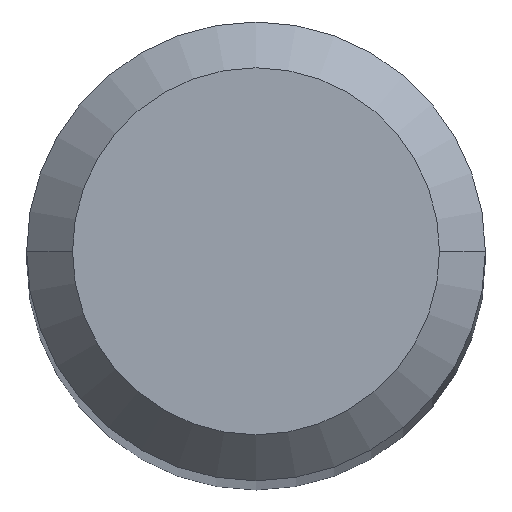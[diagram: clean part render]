
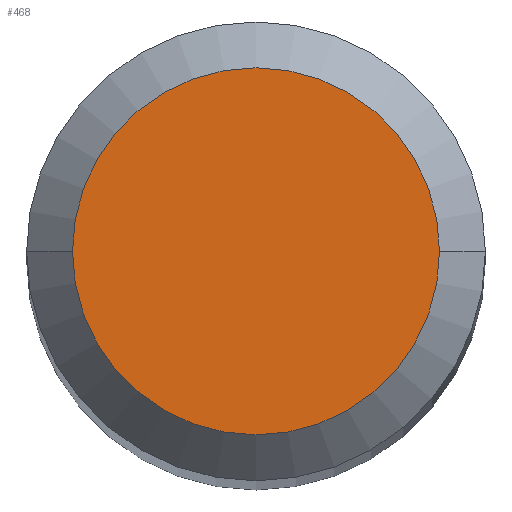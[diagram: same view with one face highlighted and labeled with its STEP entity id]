
A CAD part, top view. The second image highlights one B-rep face of the part: STEP entity #468.
In plain terms, the highlighted planar face has unit normal (0, 0, 1).
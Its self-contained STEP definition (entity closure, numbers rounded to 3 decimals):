
#9 = AXIS2_PLACEMENT_3D ( 'NONE', #73, #547, #412 ) ;
#46 = DIRECTION ( 'NONE',  ( 0., 0., 1. ) ) ;
#52 = CARTESIAN_POINT ( 'NONE',  ( 1.2, 0., 0. ) ) ;
#62 = ORIENTED_EDGE ( 'NONE', *, *, #71, .F. ) ;
#71 = EDGE_CURVE ( 'NONE', #283, #215, #132, .T. ) ;
#73 = CARTESIAN_POINT ( 'NONE',  ( 0., 0., 0. ) ) ;
#80 = AXIS2_PLACEMENT_3D ( 'NONE', #81, #46, #128 ) ;
#81 = CARTESIAN_POINT ( 'NONE',  ( 0., 1.2, 0. ) ) ;
#95 = CIRCLE ( 'NONE', #9, 1.2 ) ;
#110 = ORIENTED_EDGE ( 'NONE', *, *, #333, .F. ) ;
#125 = PLANE ( 'NONE',  #80 ) ;
#128 = DIRECTION ( 'NONE',  ( 1., 0., 0. ) ) ;
#132 = CIRCLE ( 'NONE', #302, 1.2 ) ;
#172 = FACE_OUTER_BOUND ( 'NONE', #496, .T. ) ;
#205 = CARTESIAN_POINT ( 'NONE',  ( -1.2, 0., 0. ) ) ;
#209 = DIRECTION ( 'NONE',  ( 0., 0., -1. ) ) ;
#215 = VERTEX_POINT ( 'NONE', #52 ) ;
#283 = VERTEX_POINT ( 'NONE', #205 ) ;
#302 = AXIS2_PLACEMENT_3D ( 'NONE', #506, #209, #548 ) ;
#333 = EDGE_CURVE ( 'NONE', #215, #283, #95, .T. ) ;
#412 = DIRECTION ( 'NONE',  ( -1., 0., 0. ) ) ;
#468 = ADVANCED_FACE ( 'NONE', ( #172 ), #125, .T. ) ;
#496 = EDGE_LOOP ( 'NONE', ( #62, #110 ) ) ;
#506 = CARTESIAN_POINT ( 'NONE',  ( 0., 0., 0. ) ) ;
#547 = DIRECTION ( 'NONE',  ( 0., 0., -1. ) ) ;
#548 = DIRECTION ( 'NONE',  ( -1., 0., 0. ) ) ;
